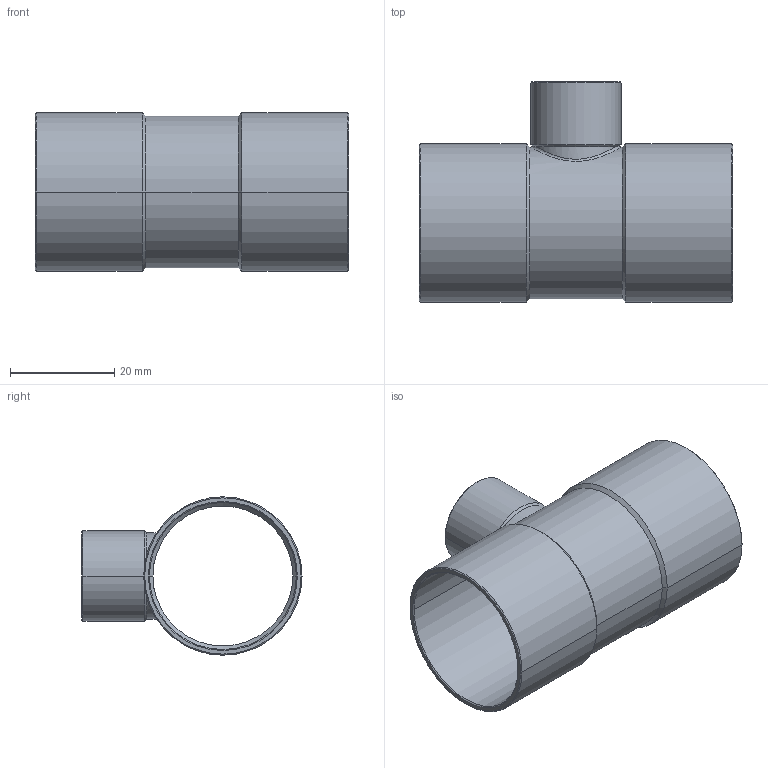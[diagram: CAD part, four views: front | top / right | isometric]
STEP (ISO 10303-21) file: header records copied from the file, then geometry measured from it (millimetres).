
FILE_DESCRIPTION((''),'2;1');
FILE_NAME('G:\Technics\CAD\Bauteile\15130\15130281528.stp','2005-11-02T10:19:45',('boden'),(''),'Autodesk Inventor 8','Autodesk Inventor 8','');
FILE_SCHEMA(('AUTOMOTIVE_DESIGN { 1 0 10303 214 1 1 1 1 }'));
Length unit declared in the file: millimetre
Products named in the file (1): 15130281528
Bounding box: 60 x 42.17 x 30.35 mm (x, y, z)
Volume: 6598.1 mm3; surface area: 12221.5 mm2
Topology: 1 solids, 1 shells, 48 faces, 106 edges, 59 vertices
Faces by surface type: cone 24, cylinder 20, plane 3, bspline 1
Entity records: 1566 total; most frequent: CARTESIAN_POINT 476, DIRECTION 238, ORIENTED_EDGE 212, EDGE_CURVE 106, AXIS2_PLACEMENT_3D 97, VERTEX_POINT 59, EDGE_LOOP 51, CIRCLE 49
